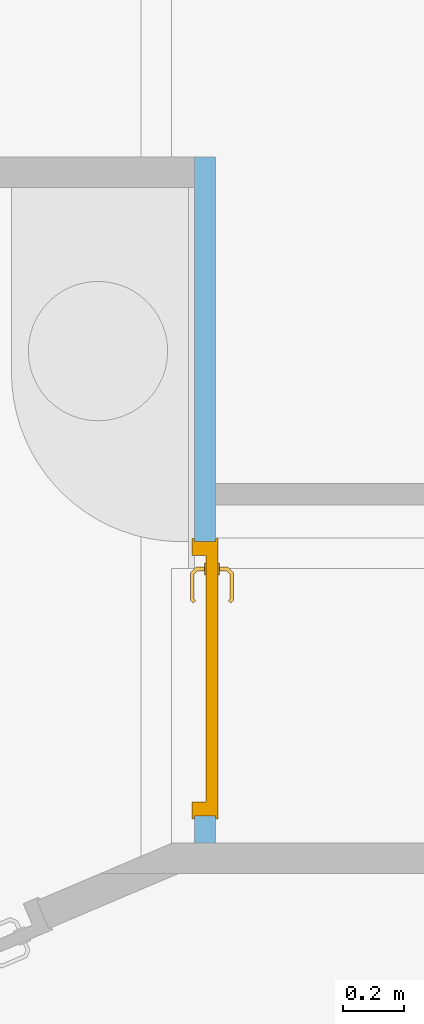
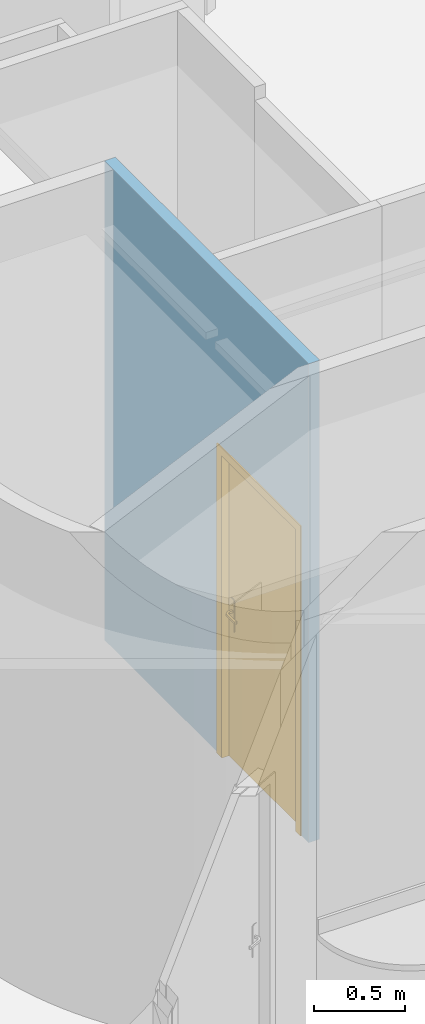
# One storey, part 84 of 137: 1 door, 1 opening, plus 1 element that does not belong to this part.
"""IFC2X3 building model written with IfcOpenShell, lengths in centimetres."""

import ifcopenshell
import ifcopenshell.guid

model = None  # the IFC model being written
_history = None  # IfcOwnerHistory: only IFC2X3 demands one
_inside = {}  # id of a spatial element -> (the spatial element, [elements in it])
_under = {}  # id of a project, library or spatial element -> (it, [spatial elements below it])
_declared = {}  # id of a project -> (the project, [libraries it declares])
_typed = {}  # id of a type object -> (the type object, [elements of that type])
_made_of = {}  # id of a material, layer set ... -> (it, [elements and type objects made of it])


def new_model(schema):
    """Start an empty IFC model of exactly this schema.

    Asked for "IFC4X3", IfcOpenShell would pick the latest addendum, in which some entities
    have other attributes; the version numbers below select the first issue.
    IFC2X3 requires an IfcOwnerHistory on every rooted entity: one is made here for all.
    """
    global model, _history
    if schema == "IFC4X3":
        model = ifcopenshell.file(schema_version=(4, 3, 0, 0))
    else:
        model = ifcopenshell.file(schema=schema)
    _inside.clear()
    _under.clear()
    _declared.clear()
    _typed.clear()
    _made_of.clear()
    _history = None
    if model.schema == "IFC2X3":
        org = make("IfcOrganization", Name="unknown")
        user = make(
            "IfcPersonAndOrganization",
            ThePerson=make("IfcPerson", FamilyName="unknown"),
            TheOrganization=org,
        )
        app = make(
            "IfcApplication",
            ApplicationDeveloper=org,
            Version="unknown",
            ApplicationFullName="unknown",
            ApplicationIdentifier="unknown",
        )
        _history = make(
            "IfcOwnerHistory",
            OwningUser=user,
            OwningApplication=app,
            ChangeAction="ADDED",
            CreationDate=0,
        )
    return model


def make(cls, **values):
    """One entity of the class cls with the attributes given. An attribute that is None is left unset."""
    return model.create_entity(
        cls, **{name: value for name, value in values.items() if value is not None}
    )


def entity(cls, *values):
    """Any entity or typed value of the class cls, its attributes in the order of the schema. None: left unset."""
    e = model.create_entity(cls)
    for i, value in enumerate(values):
        if value is not None:
            e[i] = value
    return e


def rooted(cls, **values):
    """An entity with a GlobalId (a new one), such as an element, a storey or a relation."""
    return make(cls, GlobalId=ifcopenshell.guid.new(), OwnerHistory=_history, **values)


def si_unit(unit_type, name, prefix=None):
    """IfcSIUnit, for example si_unit("LENGTHUNIT", "METRE", prefix="MILLI")."""
    return make("IfcSIUnit", UnitType=unit_type, Prefix=prefix, Name=name)


def converted_unit(unit_type, name, factor, base, dimensions=None, offset=None):
    """IfcConversionBasedUnit, such as the inch: factor (a typed value) times the base unit."""
    return make(
        "IfcConversionBasedUnit"
        if offset is None
        else "IfcConversionBasedUnitWithOffset",
        ConversionOffset=offset,
        Dimensions=None
        if dimensions is None
        else entity("IfcDimensionalExponents", *dimensions),
        UnitType=unit_type,
        Name=name,
        ConversionFactor=make(
            "IfcMeasureWithUnit", ValueComponent=factor, UnitComponent=base
        ),
    )


def derived_unit(unit_type, elements):
    """IfcDerivedUnit: a product of units, each with its exponent."""
    return make(
        "IfcDerivedUnit",
        Elements=[
            make("IfcDerivedUnitElement", Unit=unit, Exponent=power)
            for unit, power in elements
        ],
        UnitType=unit_type,
    )


def assignment(units):
    """IfcUnitAssignment: the units of a project."""
    return None if units is None else make("IfcUnitAssignment", Units=units)


def point(xyz):
    """IfcCartesianPoint."""
    return None if xyz is None else make("IfcCartesianPoint", Coordinates=xyz)


def direction(xyz):
    """IfcDirection."""
    return None if xyz is None else make("IfcDirection", DirectionRatios=xyz)


def frame(location, z_axis=None, x_axis=None):
    """IfcAxis2Placement3D, a coordinate frame: its origin and axes. An axis left out is left unset."""
    return make(
        "IfcAxis2Placement3D",
        Location=point(location),
        Axis=direction(z_axis),
        RefDirection=direction(x_axis),
    )


def frame_2d(location, x_axis=None):
    """IfcAxis2Placement2D, a coordinate frame in the plane: its origin and x axis."""
    return make(
        "IfcAxis2Placement2D", Location=point(location), RefDirection=direction(x_axis)
    )


def origin():
    """The frame at (0, 0, 0) with its axes left unset."""
    return frame((0.0, 0.0, 0.0))


def place(relative_to, where):
    """IfcLocalPlacement: puts the frame where relative to a parent placement (None: the world)."""
    return make(
        "IfcLocalPlacement", PlacementRelTo=relative_to, RelativePlacement=where
    )


def context(
    kind, dimensions, precision=None, world=None, true_north=None, identifier=None
):
    """IfcGeometricRepresentationContext, for example the 3D "Model" context."""
    return make(
        "IfcGeometricRepresentationContext",
        ContextIdentifier=identifier,
        ContextType=kind,
        CoordinateSpaceDimension=dimensions,
        Precision=precision,
        WorldCoordinateSystem=world,
        TrueNorth=true_north,
    )


def subcontext(parent, identifier, kind, view, scale=None):
    """IfcGeometricRepresentationSubContext, for example "Body" below "Model"."""
    return make(
        "IfcGeometricRepresentationSubContext",
        ContextIdentifier=identifier,
        ContextType=kind,
        ParentContext=parent,
        TargetScale=scale,
        TargetView=view,
    )


def project(units=None, contexts=None):
    """IfcProject with its units and contexts."""
    return rooted(
        "IfcProject",
        Name="project",
        RepresentationContexts=contexts,
        UnitsInContext=assignment(units),
    )


def spatial(cls, under=None, at=None, **own):
    """A site, building, storey or space (cls), placed at a placement, below another one or the project."""
    s = rooted(cls, ObjectPlacement=at, **own)
    if under is not None:
        _under.setdefault(under.id(), (under, []))[1].append(s)
    return s


def polyline(points):
    """IfcPolyline through the points."""
    return make("IfcPolyline", Points=[point(p) for p in points])


def profile(cls, at=None, kind="AREA", **sizes):
    """A parametric profile (cls). Its sizes go by their IFC names, for example OverallWidth=200.0."""
    return make(cls, ProfileType=kind, Position=at, **sizes)


def rectangle(**sizes):
    """IfcRectangleProfileDef."""
    return profile("IfcRectangleProfileDef", **sizes)


def extrude(swept, where, along, depth):
    """IfcExtrudedAreaSolid: the profile swept, set in the frame where, extruded along a direction by depth."""
    return make(
        "IfcExtrudedAreaSolid",
        SweptArea=swept,
        Position=where,
        ExtrudedDirection=direction(along),
        Depth=depth,
    )


def clip(a, b, op="DIFFERENCE"):
    """IfcBooleanClippingResult: the solid a cut by the half space b."""
    return make(
        "IfcBooleanClippingResult", Operator=op, FirstOperand=a, SecondOperand=b
    )


def bounded_halfspace(plane, agree, where, boundary):
    """IfcPolygonalBoundedHalfSpace: a half space limited to a polygon's prism."""
    return make(
        "IfcPolygonalBoundedHalfSpace",
        BaseSurface=make("IfcPlane", Position=plane),
        AgreementFlag=agree,
        Position=where,
        PolygonalBoundary=boundary,
    )


def faces_of(points, faces, orient=None, outer=None):
    """IfcFace entities. A face is a list of loops; a loop is a list of indices into points, from 0.

    orient and outer hold one flag for each loop. By default every Orientation is true, the
    first loop of a face is its IfcFaceOuterBound and the others are IfcFaceBound.
    """
    made = []
    for i, loops in enumerate(faces):
        bounds = []
        for j, loop in enumerate(loops):
            is_outer = j == 0 if outer is None else outer[i][j]
            bounds.append(
                make(
                    "IfcFaceOuterBound" if is_outer else "IfcFaceBound",
                    Bound=make("IfcPolyLoop", Polygon=[points[k] for k in loop]),
                    Orientation=True if orient is None else orient[i][j],
                )
            )
        made.append(make("IfcFace", Bounds=bounds))
    return made


def faceted_brep(points, faces, orient=None, outer=None, voids=None):
    """IfcFacetedBrep: a solid bounded by flat faces; with voids (closed shells), ...WithVoids."""
    shared = [point(p) for p in points]
    hull = make("IfcClosedShell", CfsFaces=faces_of(shared, faces, orient, outer))
    if voids is None:
        return make("IfcFacetedBrep", Outer=hull)
    return make(
        "IfcFacetedBrepWithVoids",
        Outer=hull,
        Voids=[
            make(cls, CfsFaces=faces_of(shared, fs, o, b)) for cls, fs, o, b in voids
        ],
    )


def shape(context_of_items, identifier, shape_type, items):
    """IfcShapeRepresentation: the items that make up one representation, for example the "Body"."""
    return make(
        "IfcShapeRepresentation",
        ContextOfItems=context_of_items,
        RepresentationIdentifier=identifier,
        RepresentationType=shape_type,
        Items=items,
    )


def source(mapping_origin, context_of_items, identifier, shape_type, items):
    """IfcRepresentationMap: a shape defined once, which mapped items show again and again."""
    return make(
        "IfcRepresentationMap",
        MappingOrigin=mapping_origin,
        MappedRepresentation=shape(context_of_items, identifier, shape_type, items),
    )


def transform(
    local_origin,
    x_axis=None,
    y_axis=None,
    z_axis=None,
    scale=None,
    scale2=None,
    scale3=None,
    uniform=True,
):
    """IfcCartesianTransformationOperator3D, or its non-uniform kind. x_axis, y_axis, z_axis: its Axis1, 2, 3."""
    if uniform:
        return make(
            "IfcCartesianTransformationOperator3D",
            Axis1=direction(x_axis),
            Axis2=direction(y_axis),
            LocalOrigin=point(local_origin),
            Scale=scale,
            Axis3=direction(z_axis),
        )
    return make(
        "IfcCartesianTransformationOperator3DnonUniform",
        Axis1=direction(x_axis),
        Axis2=direction(y_axis),
        LocalOrigin=point(local_origin),
        Scale=scale,
        Axis3=direction(z_axis),
        Scale2=scale2,
        Scale3=scale3,
    )


def mapped(mapping_source, mapping_target):
    """IfcMappedItem: shows the shape of a source again, moved by a transform."""
    return make(
        "IfcMappedItem", MappingSource=mapping_source, MappingTarget=mapping_target
    )


def material(Name=None, Category=None):
    """IfcMaterial."""
    return make("IfcMaterial", Name=Name, Category=Category)


def material_list(materials):
    """IfcMaterialList."""
    return make("IfcMaterialList", Materials=materials)


def layer(
    of_material, thickness, ventilated=None, Name=None, Category=None, Priority=None
):
    """IfcMaterialLayer: one layer of a wall or slab, of a material (None: an air gap)."""
    return make(
        "IfcMaterialLayer",
        Material=of_material,
        LayerThickness=thickness,
        IsVentilated=ventilated,
        Name=Name,
        Category=Category,
        Priority=Priority,
    )


def layer_set(layers, Name=None):
    """IfcMaterialLayerSet."""
    return make("IfcMaterialLayerSet", MaterialLayers=layers, LayerSetName=Name)


def layer_usage(for_layer_set, set_direction, sense, offset, extent=None):
    """IfcMaterialLayerSetUsage: how a layer set lies in its element."""
    return make(
        "IfcMaterialLayerSetUsage",
        ForLayerSet=for_layer_set,
        LayerSetDirection=set_direction,
        DirectionSense=sense,
        OffsetFromReferenceLine=offset,
        ReferenceExtent=extent,
    )


def made_of(thing, what):
    """Note that an element or type object is made of a material, layer set ...; save() writes the relation."""
    if what is not None:
        _made_of.setdefault(what.id(), (what, []))[1].append(thing)
    return thing


def type_object(cls, material=None, **own):
    """A type object (cls), such as IfcWallType, which elements share."""
    return made_of(rooted(cls, **own), material)


def type_shapes(of_type, sources):
    """Give a type object the sources (RepresentationMaps) that its elements show as mapped items."""
    of_type.RepresentationMaps = sources


def element(
    cls,
    number,
    at=None,
    inside=None,
    cuts=None,
    type_object=None,
    material=None,
    context=None,
    identifier="Body",
    shape_type=None,
    held_by="IfcProductDefinitionShape",
    body=None,
    shapes=None,
    **own,
):
    """One element of the class cls, such as IfcWall. Its Tag is "e" and its number.

    at: its placement. inside: the storey or other place that contains it. cuts: it is an
    opening in that element (IfcRelVoidsElement). A single representation is given by context,
    identifier, shape_type and body (its items); several are given by shapes. held_by: the class
    of the entity that holds the representations. save() writes the other relations.
    """
    e = rooted(cls, Tag="e%d" % number, ObjectPlacement=at, **own)
    if body is not None:
        shapes = [shape(context, identifier, shape_type, body)]
    if shapes is not None:
        e.Representation = make(held_by, Representations=shapes)
    if inside is not None:
        _inside.setdefault(inside.id(), (inside, []))[1].append(e)
    if cuts is not None:
        rooted(
            "IfcRelVoidsElement", RelatingBuildingElement=cuts, RelatedOpeningElement=e
        )
    if type_object is not None:
        _typed.setdefault(type_object.id(), (type_object, []))[1].append(e)
    return made_of(e, material)


def fill(opening, filler):
    """IfcRelFillsElement: the door or window that sits in an opening."""
    return rooted(
        "IfcRelFillsElement",
        RelatingOpeningElement=opening,
        RelatedBuildingElement=filler,
    )


def aggregate(whole, parts):
    """IfcRelAggregates: a whole, such as a stair, and the parts it consists of."""
    return rooted("IfcRelAggregates", RelatingObject=whole, RelatedObjects=parts)


def save(model, path):
    """Write the relations noted so far, then the file.

    IfcRelAggregates (storeys below a building ...), IfcRelContainedInSpatialStructure (elements
    in a storey), IfcRelDefinesByType, IfcRelAssociatesMaterial and IfcRelDeclares: one each for
    every whole, place, type object, material and project.
    """
    for whole, parts in _under.values():
        aggregate(whole, parts)
    for where, things in _inside.values():
        rooted(
            "IfcRelContainedInSpatialStructure",
            RelatedElements=things,
            RelatingStructure=where,
        )
    for kind, things in _typed.values():
        rooted("IfcRelDefinesByType", RelatedObjects=things, RelatingType=kind)
    for what, things in _made_of.values():
        rooted("IfcRelAssociatesMaterial", RelatedObjects=things, RelatingMaterial=what)
    for by, libraries in _declared.values():
        rooted("IfcRelDeclares", RelatingContext=by, RelatedDefinitions=libraries)
    model.write(path)


model = new_model("IFC2X3")

# Units and contexts
model_context = context("Model", 3, precision=0.001, world=origin(), true_north=direction((6.12303176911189e-17, 1.0)))
body_context = subcontext(model_context, "Body", "Model", "MODEL_VIEW")
ifc_project = project(units=[si_unit("LENGTHUNIT", "METRE", prefix="CENTI"), si_unit("AREAUNIT", "SQUARE_METRE"), si_unit("VOLUMEUNIT", "CUBIC_METRE"), converted_unit("PLANEANGLEUNIT", "DEGREE", entity("IfcRatioMeasure", 0.0174532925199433), si_unit("PLANEANGLEUNIT", "RADIAN"), dimensions=[0, 0, 0, 0, 0, 0, 0]), si_unit("MASSUNIT", "GRAM", prefix="KILO"), si_unit("TIMEUNIT", "SECOND"), si_unit("FREQUENCYUNIT", "HERTZ"), si_unit("THERMODYNAMICTEMPERATUREUNIT", "DEGREE_CELSIUS"), derived_unit("THERMALTRANSMITTANCEUNIT", [(si_unit("MASSUNIT", "GRAM", prefix="KILO"), 1), (si_unit("THERMODYNAMICTEMPERATUREUNIT", "KELVIN"), -1), (si_unit("TIMEUNIT", "SECOND"), -3)]), derived_unit("VOLUMETRICFLOWRATEUNIT", [(si_unit("LENGTHUNIT", "METRE"), 3), (si_unit("TIMEUNIT", "SECOND"), -1)]), si_unit("ELECTRICCURRENTUNIT", "AMPERE"), si_unit("ELECTRICVOLTAGEUNIT", "VOLT"), si_unit("POWERUNIT", "WATT"), si_unit("FORCEUNIT", "NEWTON", prefix="KILO"), si_unit("ILLUMINANCEUNIT", "LUX"), si_unit("LUMINOUSFLUXUNIT", "LUMEN"), si_unit("LUMINOUSINTENSITYUNIT", "CANDELA"), derived_unit("USERDEFINED", [(si_unit("MASSUNIT", "GRAM", prefix="KILO"), -1), (si_unit("LENGTHUNIT", "METRE"), -2), (si_unit("TIMEUNIT", "SECOND"), 3), (si_unit("LUMINOUSFLUXUNIT", "LUMEN"), 1)]), derived_unit("LINEARVELOCITYUNIT", [(si_unit("LENGTHUNIT", "METRE"), 1), (si_unit("TIMEUNIT", "SECOND"), -1)]), si_unit("PRESSUREUNIT", "PASCAL"), derived_unit("USERDEFINED", [(si_unit("LENGTHUNIT", "METRE"), -2), (si_unit("MASSUNIT", "GRAM", prefix="KILO"), 1), (si_unit("TIMEUNIT", "SECOND"), -2)])], contexts=[model_context])

# Site, building, storey
site_placement = place(None, frame((8.62739174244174, -249.285249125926, 0.0)))
site = spatial("IfcSite", under=ifc_project, at=site_placement, Name="Default", CompositionType="ELEMENT")
building_placement = place(site_placement, origin())
building = spatial("IfcBuilding", under=site, at=building_placement, CompositionType="ELEMENT")
storey_placement = place(building_placement, origin())
storey = spatial("IfcBuildingStorey", under=building, at=storey_placement, Name="RDC", CompositionType="ELEMENT", Elevation=-8.82465566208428e-11)

# Wall, opening, door
ifc_material_1 = material(Name="Plâtre")
ifc_layer = layer(ifc_material_1, 7.0)
ifc_layer_set = layer_set([ifc_layer], Name="Mur de base:PLA 7")
ifc_layer_usage = layer_usage(ifc_layer_set, "AXIS2", "NEGATIVE", 3.5)
wall_type = type_object("IfcWallType", Name="Mur de base:PLA 7", PredefinedType="STANDARD", material=ifc_layer_set)
wall_placement = place(storey_placement, frame((2555.40482781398, 441.128568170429, 0.0), z_axis=(0.0, 0.0, 1.0), x_axis=(0.0, 1.0, 0.0)))
wall = element("IfcWallStandardCase", 1, at=wall_placement, inside=storey, type_object=wall_type, material=ifc_layer_usage, Name="Mur de base:PLA 7", ObjectType="Mur de base:PLA 7", context=body_context, shape_type="Clipping", body=[
    clip(extrude(rectangle(XDim=225.000000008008, YDim=7.00000000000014, at=frame_2d((112.500000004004, -4.66293670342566e-15), x_axis=(-1.0, 0.0))), origin(), (0.0, 0.0, 1.0), 322.000000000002), bounded_halfspace(frame((0.0, -3.50000000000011, 322.0), z_axis=(0.0, 0.0, -1.0), x_axis=(1.0, 0.0, 0.0)), True, frame((0.0, -3.50000000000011, 322.0)), polyline([(0.0, 0.0), (110.851639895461, 0.0), (117.851639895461, 0.0), (225.0, 0.0), (225.0, 7.0), (215.0, 7.0), (0.0, 7.0), (0.0, 0.0)]))),
])
opening_placement = place(wall_placement, frame((98.851639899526, 3.49999999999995, 0.0)))
opening = element("IfcOpeningElement", 2, at=opening_placement, cuts=wall, Name="Simple(R)_bois_mu:83 x 204 cm:1", ObjectType="Opening", context=body_context, shape_type="SweptSolid", body=[
    extrude(rectangle(XDim=207.499999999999, YDim=89.9999999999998, at=frame_2d((103.749999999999, 44.9999999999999), x_axis=(1.0, 0.0))), frame((0.0, 0.0, 0.0), z_axis=(0.0, -1.0, 0.0), x_axis=(0.0, 0.0, 1.0)), (0.0, 0.0, 1.0), 7.0),
])
ifc_material_2 = material(Name="Porte - Poignée")
ifc_material_3 = material(Name="Porte - Cadre")
ifc_material_4 = material(Name="Porte - Panneau")
ifc_material_list_1 = material_list([ifc_material_2, ifc_material_3, ifc_material_4])
ifc_material_list_2 = material_list([ifc_material_2, ifc_material_3, ifc_material_4])
door_style = type_object("IfcDoorStyle", Name="83 x 204 cm", ConstructionType="NOTDEFINED", OperationType="SINGLE_SWING_LEFT", ParameterTakesPrecedence=False, Sizeable=False, material=ifc_material_list_2)
shared_shape = source(origin(), body_context, "Body", "Brep", [
    faceted_brep([(82.2025298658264, 3.69999999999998, 100.778044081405), (81.7974701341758, 3.69999999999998, 100.778044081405), (81.3999999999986, 3.69999999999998, 100.699999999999), (81.4000000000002, 3.69999999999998, 99.3000000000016), (81.7974701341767, 3.69999999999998, 99.2219559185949), (82.2025298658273, 3.69999999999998, 99.2219559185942), (82.6000000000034, 3.69999999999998, 99.2999999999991), (82.600000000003, 3.69999999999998, 100.699999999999), (81.3999999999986, 5.94852045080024, 100.699999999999), (81.3999999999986, 5.94852045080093, 99.3000000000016), (81.7974701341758, 6.1131579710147, 100.778044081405), (82.2025298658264, 6.2809392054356, 100.778044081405), (80.5838906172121, 7.89957845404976, 100.778044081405), (80.4161093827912, 7.49451872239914, 100.778044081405), (72.0793122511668, 7.49451872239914, 100.778044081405), (71.9115310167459, 7.89957845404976, 100.778044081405), (71.145104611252, 7.13315204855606, 100.778044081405), (71.4315250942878, 6.84673156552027, 100.778044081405), (82.600000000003, 6.44557672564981, 100.699999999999), (82.6000000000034, 6.44557672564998, 99.2999999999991), (82.2025298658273, 6.28093920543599, 99.2219559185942), (81.7974701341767, 6.11315797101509, 99.2219559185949), (80.4161093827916, 7.49451872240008, 99.2219559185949), (80.5838906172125, 7.8995784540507, 99.2219559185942), (71.9115310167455, 7.8995784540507, 99.2219559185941), (72.0793122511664, 7.49451872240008, 99.2219559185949), (71.4315250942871, 6.84673156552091, 99.2219559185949), (71.1451046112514, 7.13315204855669, 99.2219559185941), (80.2514718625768, 7.09704858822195, 100.699999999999), (80.2514718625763, 7.09704858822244, 99.3000000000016), (80.7485281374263, 8.29704858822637, 100.699999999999), (80.7485281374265, 8.29704858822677, 99.2999999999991), (76.247710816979, 7.09704858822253, 100.699999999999), (72.2439497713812, 7.09704858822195, 100.699999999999), (72.2439497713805, 7.09704858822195, 99.3000000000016), (76.247710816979, 7.09704858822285, 99.3000000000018), (76.2477108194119, 7.71249275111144, 100.787811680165), (75.7399422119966, 8.29704858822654, 100.699999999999), (71.7468934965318, 8.29704858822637, 100.699999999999), (76.7554791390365, 8.29704858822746, 99.2999999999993), (71.7468934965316, 8.29704858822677, 99.2999999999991), (76.247710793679, 7.71249274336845, 99.2121883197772), (70.8640507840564, 7.41420587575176, 100.699999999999), (70.8640507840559, 7.41420587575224, 99.2999999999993), (71.7125789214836, 6.5656777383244, 99.3000000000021), (71.7125789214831, 6.56567773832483, 100.699999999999)], [[[0, 1, 2, 3, 4, 5, 6, 7]], [[8, 9, 3, 2]], [[1, 10, 8, 2]], [[1, 0, 11, 12, 13, 10]], [[14, 15, 16, 17]], [[7, 18, 11, 0]], [[18, 7, 6, 19]], [[6, 5, 20, 19]], [[5, 4, 21, 22, 23, 20]], [[24, 25, 26, 27]], [[4, 3, 9, 21]], [[28, 29, 9, 8]], [[8, 10, 13, 28]], [[18, 30, 12, 11]], [[31, 30, 18, 19]], [[19, 20, 23, 31]], [[21, 9, 29, 22]], [[29, 28, 32, 33, 34, 35]], [[36, 32, 13]], [[37, 38, 15]], [[37, 12, 30]], [[36, 12, 37]], [[14, 32, 36]], [[36, 15, 14]], [[28, 13, 32]], [[32, 14, 33]], [[12, 36, 13]], [[15, 36, 37]], [[30, 31, 39, 40, 38, 37]], [[23, 41, 39]], [[24, 39, 41]], [[39, 31, 23]], [[39, 24, 40]], [[22, 35, 41]], [[41, 23, 22]], [[41, 35, 25]], [[35, 22, 29]], [[34, 25, 35]], [[24, 41, 25]], [[17, 16, 42, 43, 27, 26, 44, 45]], [[45, 44, 34, 33]], [[33, 14, 17, 45]], [[15, 38, 42, 16]], [[43, 42, 38, 40]], [[24, 27, 43, 40]], [[34, 44, 26, 25]]]),
    faceted_brep([(81.7974701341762, -1.30000000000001, 100.778044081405), (82.2025298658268, -1.30000000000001, 100.778044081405), (82.6000000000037, -1.30000000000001, 100.699999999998), (82.6000000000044, -1.30000000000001, 99.2999999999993), (82.2025298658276, -1.30000000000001, 99.2219559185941), (81.797470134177, -1.30000000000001, 99.2219559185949), (81.3999999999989, -1.30000000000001, 99.3000000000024), (81.3999999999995, -1.30000000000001, 100.699999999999), (82.2025298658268, -3.90045754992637, 100.778044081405), (82.6000000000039, -4.06509507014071, 100.699999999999), (81.7974701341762, -3.73267631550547, 100.778044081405), (80.4298602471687, -5.10028620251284, 100.778044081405), (80.5976414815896, -5.50534593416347, 100.778044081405), (71.9142453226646, -5.50534593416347, 100.778044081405), (72.0820265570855, -5.10028620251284, 100.778044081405), (71.4342394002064, -4.4524990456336, 100.778044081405), (71.1478189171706, -4.73891952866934, 100.778044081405), (81.3999999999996, -3.56803879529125, 100.699999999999), (81.3999999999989, -3.56803879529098, 99.3000000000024), (81.797470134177, -3.7326763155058, 99.2219559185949), (82.2025298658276, -3.9004575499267, 99.2219559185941), (80.5976414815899, -5.50534593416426, 99.2219559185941), (80.429860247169, -5.10028620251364, 99.2219559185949), (72.0820265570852, -5.10028620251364, 99.2219559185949), (71.9142453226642, -5.50534593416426, 99.2219559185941), (71.14781891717, -4.73891952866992, 99.2219559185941), (71.4342394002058, -4.45249904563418, 99.2219559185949), (82.6000000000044, -4.06509507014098, 99.2999999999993), (80.762279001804, -5.90281606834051, 100.699999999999), (80.2652227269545, -4.70281606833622, 100.699999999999), (80.2652227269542, -4.70281606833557, 99.3000000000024), (80.7622790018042, -5.90281606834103, 99.2999999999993), (76.255943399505, -5.31828027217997, 100.787811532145), (76.769230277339, -5.90281606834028, 100.699999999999), (71.7496078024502, -5.90281606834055, 100.699999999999), (76.255943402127, -4.70281606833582, 100.699999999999), (72.2466640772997, -4.70281606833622, 100.699999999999), (76.2559436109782, -4.70281606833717, 99.3000000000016), (72.2466640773, -4.70281606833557, 99.3000000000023), (76.2559434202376, -5.31828027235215, 99.2121884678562), (75.7426572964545, -5.90281606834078, 99.2999999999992), (71.74960780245, -5.90281606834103, 99.2999999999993), (71.7152932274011, -4.17144521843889, 99.3000000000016), (70.8667650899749, -5.01997335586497, 99.2999999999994), (70.8667650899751, -5.01997335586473, 100.699999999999), (71.7152932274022, -4.17144521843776, 100.699999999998)], [[[0, 1, 2, 3, 4, 5, 6, 7]], [[2, 1, 8, 9]], [[1, 0, 10, 11, 12, 8]], [[13, 14, 15, 16]], [[0, 7, 17, 10]], [[18, 17, 7, 6]], [[5, 19, 18, 6]], [[5, 4, 20, 21, 22, 19]], [[23, 24, 25, 26]], [[3, 27, 20, 4]], [[9, 27, 3, 2]], [[9, 8, 12, 28]], [[10, 17, 29, 11]], [[30, 29, 17, 18]], [[18, 19, 22, 30]], [[20, 27, 31, 21]], [[28, 31, 27, 9]], [[12, 32, 33]], [[13, 33, 32]], [[33, 28, 12]], [[33, 13, 34]], [[11, 35, 32]], [[32, 12, 11]], [[32, 35, 14]], [[35, 11, 29]], [[36, 14, 35]], [[13, 32, 14]], [[29, 30, 37, 38, 36, 35]], [[39, 37, 22]], [[40, 41, 24]], [[40, 21, 31]], [[39, 21, 40]], [[23, 37, 39]], [[39, 24, 23]], [[30, 22, 37]], [[37, 23, 38]], [[21, 39, 22]], [[24, 39, 40]], [[31, 28, 33, 34, 41, 40]], [[42, 26, 25, 43, 44, 16, 15, 45]], [[13, 16, 44, 34]], [[36, 45, 15, 14]], [[42, 45, 36, 38]], [[38, 23, 26, 42]], [[24, 41, 43, 25]], [[44, 43, 41, 34]]]),
    faceted_brep([(82.0, 3.19999999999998, 86.4641016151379), (83.0352761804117, 3.19999999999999, 86.6003983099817), (84.0, 3.19999999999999, 87.0), (84.0, 3.19999999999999, 108.0), (83.0352761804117, 3.19999999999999, 108.399601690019), (82.0, 3.19999999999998, 108.535898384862), (80.9647238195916, 3.19999999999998, 108.399601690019), (80.0, 3.19999999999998, 108.0), (80.0, 3.19999999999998, 87.0), (80.9647238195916, 3.19999999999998, 86.6003983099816), (82.0, 3.69999999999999, 108.535898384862), (83.0352761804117, 3.69999999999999, 108.399601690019), (84.0, 3.69999999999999, 108.0), (84.0, 3.69999999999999, 87.0), (83.0352761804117, 3.69999999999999, 86.6003983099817), (82.0, 3.69999999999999, 86.4641016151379), (80.9647238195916, 3.69999999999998, 86.6003983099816), (80.0, 3.69999999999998, 87.0), (80.0, 3.69999999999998, 108.0), (80.9647238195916, 3.69999999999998, 108.399601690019)], [[[0, 1, 2, 3, 4, 5, 6, 7, 8, 9]], [[10, 11, 12, 13, 14, 15, 16, 17, 18, 19]], [[6, 19, 18, 7]], [[5, 10, 19, 6]], [[4, 11, 10, 5]], [[4, 3, 12, 11]], [[12, 3, 2, 13]], [[1, 14, 13, 2]], [[0, 15, 14, 1]], [[9, 16, 15, 0]], [[9, 8, 17, 16]], [[17, 8, 7, 18]]]),
    faceted_brep([(82.0, -1.30000000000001, 86.4641016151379), (83.0352761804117, -1.30000000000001, 86.6003983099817), (84.0, -1.30000000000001, 87.0), (84.0, -1.30000000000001, 108.0), (83.0352761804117, -1.30000000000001, 108.399601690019), (82.0, -1.30000000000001, 108.535898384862), (80.9647238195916, -1.30000000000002, 108.399601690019), (80.0, -1.30000000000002, 108.0), (80.0, -1.30000000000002, 87.0), (80.9647238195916, -1.30000000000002, 86.6003983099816), (84.0, -0.800000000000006, 108.0), (84.0, -0.800000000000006, 87.0), (83.0352761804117, -0.800000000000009, 86.6003983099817), (82.0, -0.800000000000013, 86.4641016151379), (80.9647238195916, -0.800000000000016, 86.6003983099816), (80.0, -0.800000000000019, 87.0), (80.0, -0.800000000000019, 108.0), (80.9647238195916, -0.800000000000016, 108.399601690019), (82.0, -0.800000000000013, 108.535898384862), (83.0352761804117, -0.800000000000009, 108.399601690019)], [[[0, 1, 2, 3, 4, 5, 6, 7, 8, 9]], [[10, 11, 12, 13, 14, 15, 16, 17, 18, 19]], [[1, 12, 11, 2]], [[0, 13, 12, 1]], [[9, 14, 13, 0]], [[9, 8, 15, 14]], [[15, 8, 7, 16]], [[6, 17, 16, 7]], [[5, 18, 17, 6]], [[4, 19, 18, 5]], [[4, 3, 10, 19]], [[10, 3, 2, 11]]]),
    faceted_brep([(91.0, 0.0, 0.0), (92.0, 0.0, 0.0), (92.0, -0.799999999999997, 0.0), (87.5000000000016, -0.799999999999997, 0.0), (87.5000000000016, 3.2, 0.0), (86.5000000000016, 3.2, 0.0), (86.5000000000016, 7.80000000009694, 0.0), (92.0, 7.80000000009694, 0.0), (92.0, 7.0, 0.0), (91.0, 7.0, 0.0), (91.0, 7.0, 207.499999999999), (91.0, 0.0, 207.499999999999), (92.0, 7.0, 208.499999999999), (0.0, 7.0, 208.499999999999), (0.0, 7.0, 0.0), (1.0, 7.0, 0.0), (1.0, 7.0, 207.499999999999), (92.0, 7.80000000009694, 208.499999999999), (86.5000000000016, 7.80000000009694, 203.0), (5.50000000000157, 7.80000000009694, 203.0), (5.50000000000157, 7.80000000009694, 0.0), (0.0, 7.80000000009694, 0.0), (0.0, 7.80000000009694, 208.499999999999), (86.5000000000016, 3.2, 203.0), (87.5000000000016, 3.2, 204.0), (4.50000000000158, 3.2, 204.0), (4.50000000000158, 3.2, 0.0), (5.50000000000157, 3.2, 0.0), (5.50000000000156, 3.2, 203.0), (87.5000000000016, -0.799999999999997, 204.0), (92.0, -0.799999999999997, 208.499999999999), (0.0, -0.799999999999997, 208.499999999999), (0.0, -0.799999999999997, 0.0), (4.50000000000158, -0.799999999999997, 0.0), (4.50000000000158, -0.799999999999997, 204.0), (92.0, 0.0, 208.499999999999), (1.0, 0.0, 207.499999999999), (1.0, 0.0, 0.0), (0.0, 0.0, 0.0), (0.0, 0.0, 208.499999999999)], [[[0, 1, 2, 3, 4, 5, 6, 7, 8, 9]], [[9, 10, 11, 0]], [[8, 12, 13, 14, 15, 16, 10, 9]], [[7, 17, 12, 8]], [[6, 18, 19, 20, 21, 22, 17, 7]], [[5, 23, 18, 6]], [[4, 24, 25, 26, 27, 28, 23, 5]], [[3, 29, 24, 4]], [[2, 30, 31, 32, 33, 34, 29, 3]], [[1, 35, 30, 2]], [[0, 11, 36, 37, 38, 39, 35, 1]], [[16, 15, 37, 36]], [[37, 15, 14, 21, 20, 27, 26, 33, 32, 38]], [[22, 21, 14, 13]], [[28, 27, 20, 19]], [[34, 33, 26, 25]], [[39, 38, 32, 31]], [[10, 16, 36, 11]], [[17, 22, 13, 12]], [[23, 28, 19, 18]], [[29, 34, 25, 24]], [[35, 39, 31, 30]]]),
    faceted_brep([(87.5000000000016, -0.799999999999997, 204.0), (4.50000000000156, -0.799999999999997, 204.0), (4.50000000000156, -0.799999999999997, 0.0), (87.5000000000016, -0.799999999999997, 0.0), (87.5000000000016, 3.2, 204.0), (87.5000000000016, 3.2, 0.0), (4.50000000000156, 3.2, 0.0), (4.50000000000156, 3.2, 204.0)], [[[0, 1, 2, 3]], [[4, 5, 6, 7]], [[3, 5, 4, 0]], [[2, 6, 5, 3]], [[1, 7, 6, 2]], [[0, 4, 7, 1]]]),
])
type_shapes(door_style, [shared_shape])
door_placement = place(opening_placement, frame((-91.0, -7.0, 0.0)))
door = element("IfcDoor", 3, at=door_placement, inside=storey, type_object=door_style, material=ifc_material_list_1, Name="Simple(R)_bois_mu:83 x 204 cm", ObjectType="83 x 204 cm", OverallHeight=207.499999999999, OverallWidth=89.9999999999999, context=body_context, shape_type="MappedRepresentation", body=[
    mapped(shared_shape, transform((0.0, 0.0, 0.0), scale=1.0)),
])
fill(opening, door)

save(model, "model.ifc")
